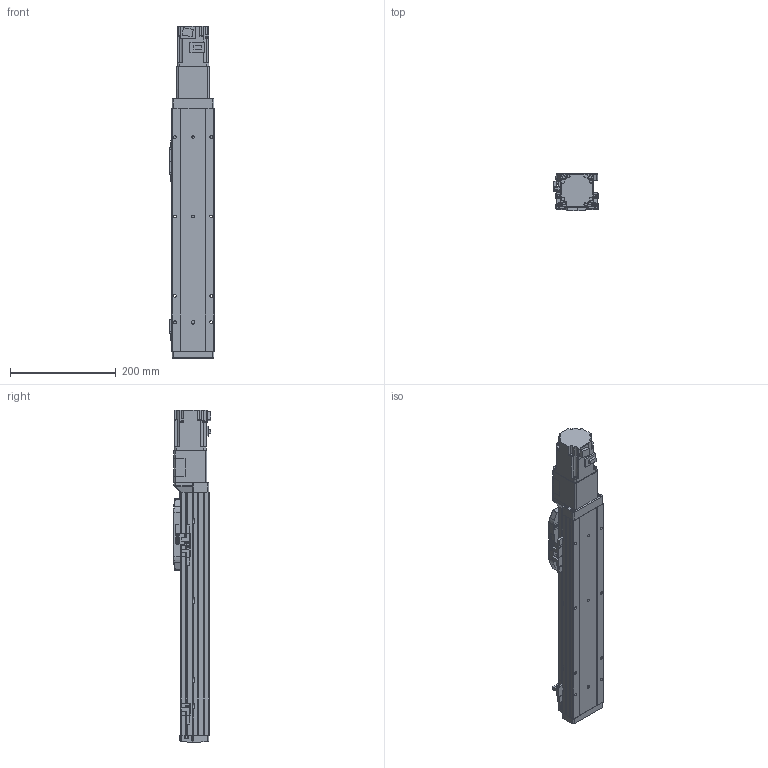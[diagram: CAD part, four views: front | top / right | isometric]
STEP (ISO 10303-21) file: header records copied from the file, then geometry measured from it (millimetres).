
FILE_DESCRIPTION (( 'STEP AP214' ), '1' );
FILE_NAME ('GSH8-300-BC-M20-1.step', '2025-01-07T06:03:25', ( '' ), ( '' ), 'SwSTEP 2.0', 'SolidWorks 2012', '' );
FILE_SCHEMA (( 'AUTOMOTIVE_DESIGN' ));
Length unit declared in the file: millimetre
Products named in the file (4): GSH8-300-BC-M20-1; HG-KR23_200W_Motor; GSH8-BC-011-300-M20; GSH8-GY-004
Assembly tree (3 placements, depth 2):
  GSH8-300-BC-M20-1
    GSH8-BC-011-300-M20
    GSH8-GY-004
    HG-KR23_200W_Motor
Bounding box: 84 x 71.3 x 627.6 mm (x, y, z)
Volume: 1457250.6 mm3; surface area: 359071.9 mm2
Topology: 3 solids, 7 shells, 1105 faces, 2918 edges, 1878 vertices
Faces by surface type: plane 640, cylinder 373, torus 38, cone 26, bspline 24, sphere 4
Entity records: 43400 total; most frequent: CARTESIAN_POINT 9801, DIRECTION 5906, ORIENTED_EDGE 5820, EDGE_CURVE 2910, AXIS2_PLACEMENT_3D 1979, VECTOR 1948, LINE 1948, VERTEX_POINT 1874
